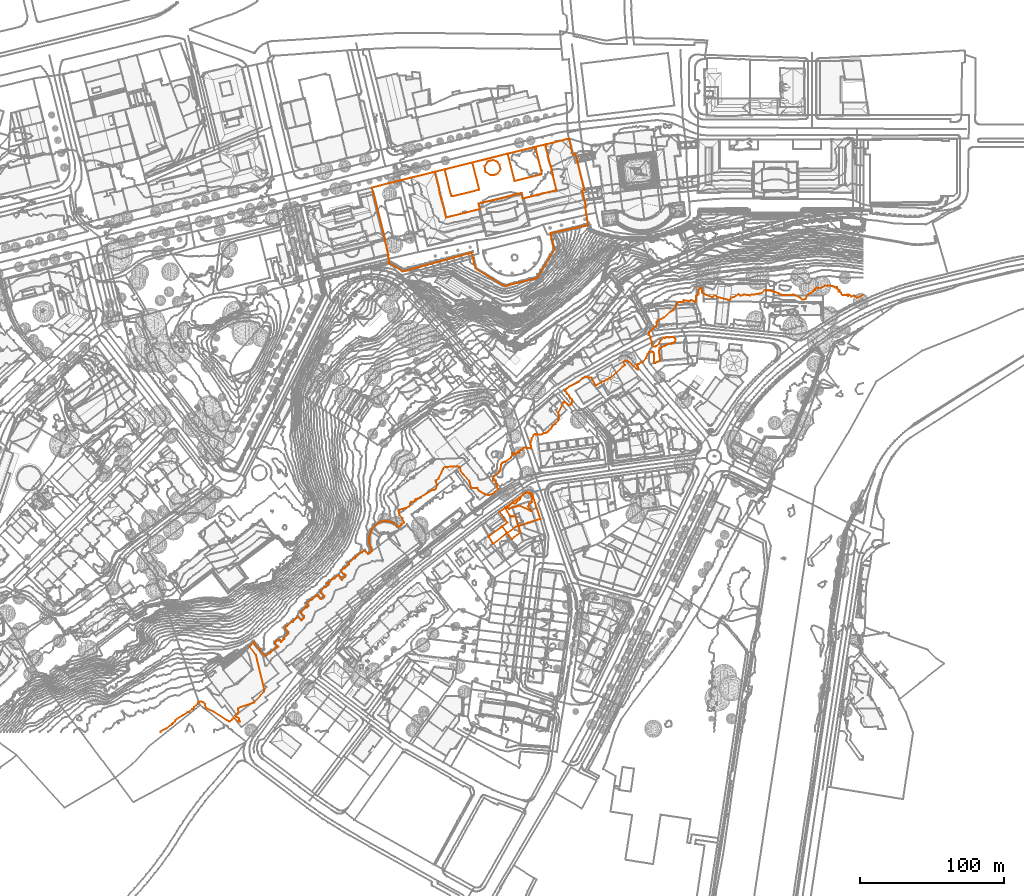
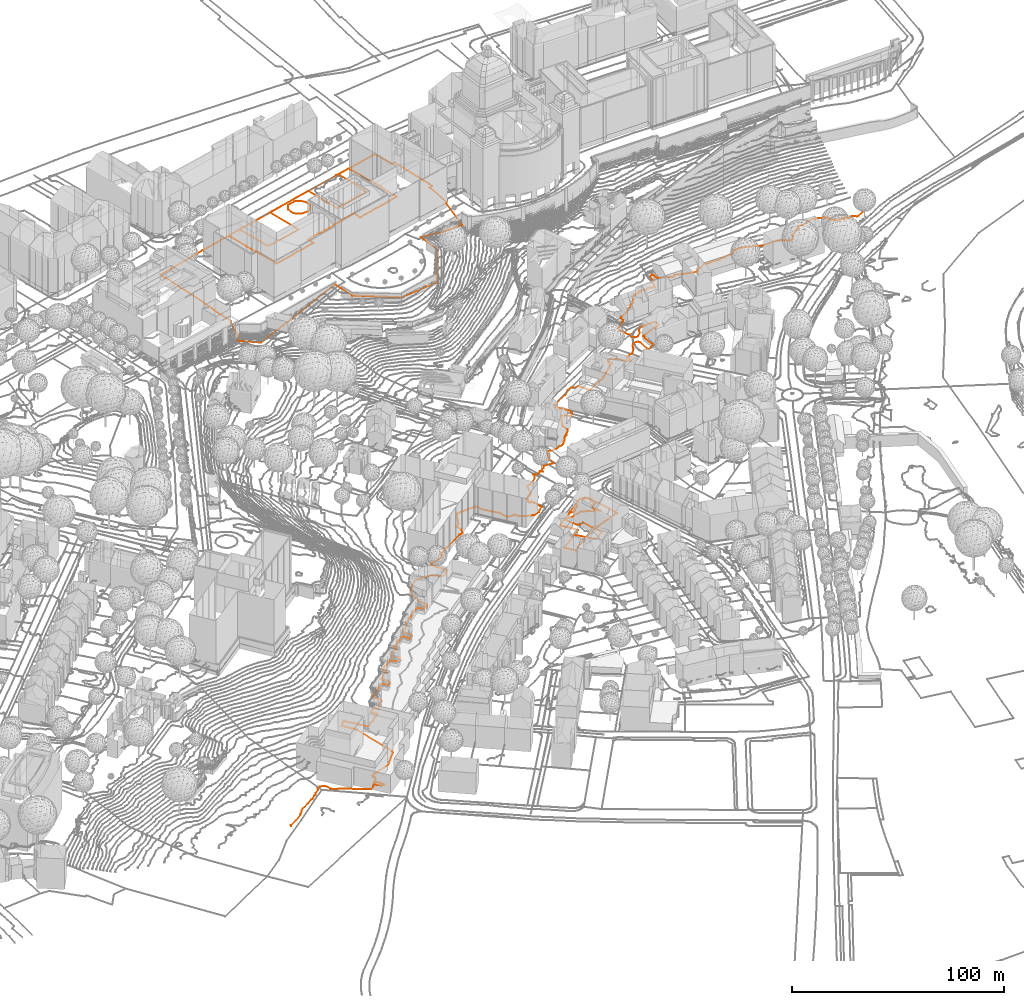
# Not in any storey, part 174 of 477: 5 geographic elements, 2 civil elements.
"""IFC4 model written with IfcOpenShell, lengths in metres."""

from ifc_helpers import new_model, entity, si_unit, frame, origin_with_axes, place, context, subcontext, project, spatial, element, save


model = new_model("IFC4")

# Units and contexts
model_context = context("Model", 3, precision=1e-05, world=origin_with_axes())
body_context = subcontext(model_context, "Body", "Model", "MODEL_VIEW")
ifc_project = project(units=[si_unit("AREAUNIT", "SQUARE_METRE"), si_unit("LENGTHUNIT", "METRE")], contexts=[model_context])

# Sites
site_1_placement = place(None, origin_with_axes())
site_1 = spatial("IfcSite", under=ifc_project, at=site_1_placement, Name="Topoexport Site")
site_2_placement = place(site_1_placement, origin_with_axes())
site_2 = spatial("IfcSite", under=site_1, at=site_2_placement, Name="TPX_ROADS_OUTLINES")

# Civil elements
civil_element_1_placement = place(site_2_placement, frame((391.2397320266, 387.3197160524, 542.4089774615), z_axis=(0.0, 0.0, 1.0), x_axis=(1.0, 0.0, 0.0)))
element("IfcCivilElement", 1, at=civil_element_1_placement, inside=site_2, Name="Roads Outline 55", ObjectType="ROAD", context=body_context, shape_type="GeometricCurveSet", body=[
    entity("IfcGeometricCurveSet", [entity("IfcIndexedPolyCurve", entity("IfcCartesianPointList3D", [[0.0, 0.0, 0.0], [7.9539999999, 1.9740000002, 0.1760027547], [7.693, 1.8730000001, 0.1655847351], [7.46, 1.7169999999, 0.1592736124], [7.2680000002, 1.5120000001, 0.1574373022], [7.1270000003, 1.27, 0.1551417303], [7.0440000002, 1.003, 0.1480296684], [7.0220000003, 0.723, 0.1486119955], [7.0630000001, 0.446, 0.1587662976], [11.094, -16.027, 0.2799670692], [11.1910000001, -16.294, 0.2602178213], [11.3460000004, -16.5319999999, 0.2444493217], [11.551, -16.7290000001, 0.2444749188], [11.7960000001, -16.8729999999, 0.2590962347], [12.0670000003, -16.9579999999, 0.2677839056], [12.3500000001, -16.9790000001, 0.2701081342], [12.6310000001, -16.9350000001, 0.2704521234], [30.6899999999, -12.4939999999, 0.2750468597], [25.9440000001, 6.4200000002, 0.3560263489], [50.4950000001, 12.4880000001, 0.4582752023], [55.2239999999, -6.4199999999, 0.3088139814], [73.0930000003, -1.9450000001, 0.5403591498], [73.3570000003, -1.845, 0.5456409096], [73.591, -1.689, 0.5501038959], [73.7850000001, -1.4839999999, 0.557705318], [73.9270000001, -1.2409999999, 0.5624250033], [74.0120000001, -0.973, 0.5620860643], [74.034, -0.692, 0.5612102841], [73.9930000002, -0.4129999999, 0.5596318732], [69.929, 15.9750000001, 0.4086814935], [69.8370000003, 16.2420000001, 0.4213523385], [69.6880000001, 16.4820000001, 0.4480459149], [69.4880000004, 16.682, 0.4774249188], [69.2480000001, 16.8319999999, 0.5012184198], [68.9810000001, 16.9240000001, 0.5214329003], [68.7000000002, 16.953, 0.5250522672], [68.4190000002, 16.9180000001, 0.5309865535], [76.3500000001, 18.878, 0.5024210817], [76.7779999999, 17.132, 0.5441844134], [76.8560000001, 17.1500000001, 0.5471285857], [79.4160000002, 6.737, 0.6301964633], [80.1630000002, 4.2040000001, 0.6048099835], [80.338, 3.496, 0.5679057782], [80.4380000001, 3.5150000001, 0.5683743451], [81.0780000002, 0.9580000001, 0.6405494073], [80.9730000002, 0.9270000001, 0.6427043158], [81.1520000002, 0.213, 0.6856949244], [81.2540000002, 0.233, 0.6870955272], [81.8900000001, -2.3370000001, 0.652331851], [81.6750000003, -2.385, 0.6457994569], [84.2460000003, -12.787, 0.6008000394], [73.8880000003, -15.335, 0.5174241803], [71.1640000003, -16.0109999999, 0.5688116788], [63.7830000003, -17.8499999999, 0.4865151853], [60.7830000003, -18.5970000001, 0.2210141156], [60.2970000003, -16.6159999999, 0.5914661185], [60.3700000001, -16.5989999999, 0.5918001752], [59.9010000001, -14.7139999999, 0.5361965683], [58.0100000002, -15.173, 0.5741794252], [58.0220000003, -15.2409999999, 0.5795991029], [54.0830000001, -16.156, 0.6511097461], [52.9110000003, -16.4279999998, 0.6690668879], [52.963, -16.5829999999, 0.646938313], [52.4939999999, -16.7239999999, 0.6504026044], [52.5220000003, -16.8229999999, 0.6362807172], [49.9539999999, -17.463, 0.7057848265], [49.9210000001, -17.3640000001, 0.7201063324], [49.4300000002, -17.4879999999, 0.7382402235], [49.452, -17.5859999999, 0.7268454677], [46.8850000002, -18.219, 0.7538668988], [46.858, -18.122, 0.7680390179], [46.3650000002, -18.247, 0.7682668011], [46.3820000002, -18.3359999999, 0.7555358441], [43.8149999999, -18.976, 0.7491621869], [43.7880000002, -18.8769999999, 0.7637245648], [43.2910000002, -18.9949999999, 0.7623552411], [43.3170000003, -19.098, 0.7472676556], [40.7460000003, -19.7319999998, 0.7039292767], [40.7280000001, -19.638, 0.7169534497], [40.2260000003, -19.746, 0.7079273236], [40.2510000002, -19.8529999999, 0.6925935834], [37.682, -20.4819999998, 0.7117748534], [37.656, -20.3859999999, 0.7212390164], [37.1830000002, -20.493, 0.741696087], [37.1370000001, -20.327, 0.7507485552], [35.9850000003, -20.6259999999, 0.7504715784], [32.0619999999, -21.645, 0.5340932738], [32.0470000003, -21.577, 0.5313535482], [30.1610000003, -22.0279999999, 0.4911811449], [30.6380000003, -23.9369999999, 0.560189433], [30.7060000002, -23.9269999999, 0.562197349], [31.2390000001, -25.899, 0.4358210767], [28.2150000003, -26.6439999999, 0.4350699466], [20.8360000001, -28.4639999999, 0.5397216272], [18.0980000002, -29.1410000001, 0.427535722], [7.727, -31.7220000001, 0.292910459], [5.1670000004, -21.301, 0.2705185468], [4.9640000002, -21.3489999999, 0.2544884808], [4.3289999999, -18.781, 0.245888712], [4.4330000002, -18.7549999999, 0.2537899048], [4.2600000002, -18.0430000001, 0.2576042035], [4.159, -18.0659999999, 0.2499798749], [3.5240000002, -15.5049999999, 0.247602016], [3.6260000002, -15.4819999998, 0.2517959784], [3.4539999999, -14.7679999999, 0.2240389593], [3.352, -14.7949999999, 0.2199966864], [2.713, -12.23, 0.1057283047], [2.9240000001, -12.182, 0.1150124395], [0.3930000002, -1.925, 0.0307673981], [0.3530000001, -1.7609999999, 0.026675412], [0.429, -1.7379999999, 0.0268372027], [0.0, 0.0, 0.0]]))]),
])
civil_element_2_placement = place(site_2_placement, frame((435.9947320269, 151.5907160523, 502.5406658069), z_axis=(0.0, 0.0, 1.0), x_axis=(1.0, 0.0, 0.0)))
element("IfcCivilElement", 2, at=civil_element_2_placement, inside=site_2, Name="Roads Outline 115", ObjectType="ROAD", context=body_context, shape_type="GeometricCurveSet", body=[
    entity("IfcGeometricCurveSet", [entity("IfcIndexedPolyCurve", entity("IfcCartesianPointList3D", [[0.0, 0.0, 0.0], [4.0089999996, 2.9370000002, 0.1239977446], [6.983, -2.818, -0.4638702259], [7.2439999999, -3.0599999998, -0.522674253], [7.5409999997, -3.2559999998, -0.5872016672], [7.8659999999, -3.3999999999, -0.6632221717], [8.21, -3.4889999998, -0.7375795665], [8.5639999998, -3.5199999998, -0.7332698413], [8.9189999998, -3.4919999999, -0.7171530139], [10.9199999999, -2.8569999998, -0.5019146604], [13.1199999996, -9.7859999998, -0.6730191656], [14.5669999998, -14.3419999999, -0.5294144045], [8.551, -18.8319999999, 0.3332273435], [5.4069999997, -14.7779999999, 0.118201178], [1.804, -10.1309999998, -0.1540762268], [5.4699999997, -7.4099999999, -0.3656011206], [0.0, 0.0, 0.0]]))]),
])

# Site
site_3_placement = place(site_1_placement, origin_with_axes())
site_3 = spatial("IfcSite", under=site_1, at=site_3_placement, Name="TPX_CADASTRES")

# Geographic elements
geographic_element_1_placement = place(site_3_placement, frame((347.5157320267, 376.3247160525, 541.7142049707), z_axis=(0.0, 0.0, 1.0), x_axis=(1.0, 0.0, 0.0)))
element("IfcGeographicElement", 3, at=geographic_element_1_placement, inside=site_3, Name="Cadastre 17", PredefinedType="NOTDEFINED", context=body_context, shape_type="GeometricCurveSet", body=[
    entity("IfcGeometricCurveSet", [entity("IfcIndexedPolyCurve", entity("IfcCartesianPointList3D", [[0.0, 0.0, 0.0], [27.1069999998, 6.8729999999, 0.4775137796], [28.8480000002, 7.3059999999, 0.5496198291], [28.8670000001, 7.2389999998, 0.548870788], [41.9709999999, 10.504, 0.6834874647], [41.9590000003, 10.567, 0.6843291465], [121.8200000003, 30.3049999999, 1.2338030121], [121.838, 30.2349999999, 1.2336385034], [134.949, 33.4789999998, 1.1926426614], [134.9360000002, 33.5459999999, 1.1941390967], [136.6809999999, 33.9709999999, 1.1454080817], [137.1239999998, 32.2289999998, 1.1894799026], [137.0580000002, 32.2079999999, 1.1928206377], [139.4070000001, 22.737, 1.2930671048], [141.2290000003, 23.1669999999, 1.2966861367], [141.6570000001, 21.433, 1.2686953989], [141.5899999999, 21.416, 1.2687752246], [142.4210000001, 18.054, 1.2287357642], [142.4890000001, 18.071, 1.2286693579], [142.8620000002, 16.5589999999, 1.2106692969], [142.7949999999, 16.54, 1.2107100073], [145.6529999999, 4.9939999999, 0.9844689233], [145.73, 5.014, 0.9822310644], [146.1000000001, 3.5, 0.9686740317], [146.031, 3.4739999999, 0.9703412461], [146.858, 0.1239999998, 0.8823697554], [146.9330000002, 0.1339999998, 0.8815106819], [147.361, -1.6140000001, 0.5264616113], [145.773, -2.0080000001, 0.5164449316], [148.5819999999, -13.3540000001, -2.0447577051], [148.0, -13.4980000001, -1.9539830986], [149.8560000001, -26.023, -7.9292750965], [137.628, -28.7140000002, -5.961913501], [123.7689999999, -31.7050000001, -2.4076516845], [126.5890000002, -42.8760000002, -3.981246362], [114.4900000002, -62.7280000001, -6.4379847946], [91.8820000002, -68.3600000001, -3.7891659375], [72.0290000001, -56.3200000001, -2.9941964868], [70.0840000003, -49.03, -2.4544519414], [69.1140000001, -45.0800000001, -2.3423547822], [21.4199999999, -58.2110000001, -11.3550115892], [11.4810000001, -52.311, -10.3635002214], [12.2990000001, -51.9850000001, -7.9863507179], [11.1140000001, -47.007, -2.4555660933], [11.497, -46.9110000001, -2.4128762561], [8.8560000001, -36.1470000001, -1.9107617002], [9.1460000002, -36.078, -1.9149801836], [1.1400000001, -3.8160000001, -0.1567824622], [0.9720000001, -3.8570000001, -0.1541655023], [0.0, 0.0, 0.0]]))]),
])
geographic_element_2_placement = place(site_3_placement, frame((428.4367320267, 134.5097160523, 502.561125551), z_axis=(0.0, 0.0, 1.0), x_axis=(1.0, 0.0, 0.0)))
element("IfcGeographicElement", 4, at=geographic_element_2_placement, inside=site_3, Name="Cadastre 196", PredefinedType="NOTDEFINED", context=body_context, shape_type="GeometricCurveSet", body=[
    entity("IfcGeometricCurveSet", [entity("IfcIndexedPolyCurve", entity("IfcCartesianPointList3D", [[0.0, 0.0, 0.0], [13.0279999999, 9.6710000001, -0.3860608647], [7.5580000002, 17.081, -0.0204597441], [16.9070000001, 23.9310000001, 0.334629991], [25.236, 29.8420000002, 0.6904770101], [25.6329999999, 30.0850000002, 0.7085374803], [26.0589999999, 30.273, 0.6447314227], [26.5060000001, 30.4040000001, 0.5625382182], [26.966, 30.473, 0.4888255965], [27.4309999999, 30.4810000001, 0.4179082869], [27.8939999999, 30.4270000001, 0.3654890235], [28.3450000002, 30.3120000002, 0.3243273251], [28.7790000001, 30.138, 0.2823823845], [29.1869999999, 29.9070000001, 0.2597841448], [29.5600000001, 29.6240000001, 0.2440791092], [29.8909999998, 29.2930000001, 0.2447197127], [30.176, 28.922, 0.2505122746], [30.409, 28.5160000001, 0.268604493], [30.585, 28.0820000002, 0.2895961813], [35.855, 12.1310000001, -0.0187651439], [32.2519999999, 10.983, 0.0634854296], [20.7209999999, 7.3080000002, -0.6928071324], [18.8470000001, 6.7110000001, -0.7718115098], [12.2280000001, 1.7510000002, 0.1921244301], [3.29, -4.96, 0.3271224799], [3.0600000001, -5.1299999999, 0.3157943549], [0.0, 0.0, 0.0]]))]),
])

# Site
site_4_placement = place(site_1_placement, origin_with_axes())
site_4 = spatial("IfcSite", under=site_1, at=site_4_placement, Name="TPX_CONTOUR_LINES")

# Geographic elements
geographic_element_3_placement = place(site_4_placement, frame((425.7501488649, 391.1707160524, 543.0), z_axis=(0.0, 0.0, 1.0), x_axis=(1.0, 0.0, 0.0)))
element("IfcGeographicElement", 5, at=geographic_element_3_placement, inside=site_4, Name="Contour Line 543.0 m", PredefinedType="NOTDEFINED", context=body_context, shape_type="GeometricCurveSet", body=[
    entity("IfcGeometricCurveSet", [entity("IfcIndexedPolyCurve", entity("IfcCartesianPointList3D", [[7.1375279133, -6.0, 0.0], [3.9275831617, -6.2620898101, 0.0], [0.629245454, -4.0, 0.0], [0.1145694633, -2.0, 0.0], [0.0, 0.0, 0.0], [1.9275831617, 3.1262344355, 0.0], [2.9275831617, 3.6130595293, 0.0], [5.9275831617, 4.3209428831, 0.0], [8.9275831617, 2.8861283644, 0.0], [10.288741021, 1.0, 0.0], [10.5862038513, -1.0, 0.0], [11.0407686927, -2.0, 0.0], [8.9275831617, -5.085081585, 0.0], [7.1375279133, -6.0, 0.0]]))]),
])
geographic_element_4_placement = place(site_4_placement, frame((441.5668752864, 154.1707160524, 503.0), z_axis=(0.0, 0.0, 1.0), x_axis=(1.0, 0.0, 0.0)))
element("IfcGeographicElement", 6, at=geographic_element_4_placement, inside=site_4, Name="Contour Line 503.0 m", PredefinedType="NOTDEFINED", context=body_context, shape_type="GeometricCurveSet", body=[
    entity("IfcGeometricCurveSet", [entity("IfcIndexedPolyCurve", entity("IfcCartesianPointList3D", [[16.7222428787, -2.0, 0.0], [16.1108567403, -2.0873717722, 0.0], [8.1108567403, 1.6091262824, 0.0], [2.1108567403, -0.0972580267, 0.0], [1.1108567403, -0.7938561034, 0.0], [0.0, 0.0, 0.0], [1.1108567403, 1.5762638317, 0.0], [3.1108567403, 3.31918849, 0.0], [5.3302686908, 3.0, 0.0], [6.3788979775, 4.0, 0.0], [6.9082362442, 5.0, 0.0], [8.5197937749, 6.0, 0.0], [9.2233913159, 8.0, 0.0], [11.1108567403, 9.6445041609, 0.0], [13.1108567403, 10.611111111, 0.0], [14.1108567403, 10.5219771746, 0.0], [15.2077973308, 10.0, 0.0], [16.1813140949, 9.0, 0.0], [17.1205332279, 7.0, 0.0], [16.7153069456, 5.0, 0.0], [16.8314191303, 4.0, 0.0], [14.9914986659, 3.0, 0.0], [14.3385980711, 1.0, 0.0], [16.7222428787, -2.0, 0.0]]))]),
])
geographic_element_5_placement = place(site_4_placement, frame((200.8565787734, -1.3292839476, 504.0), z_axis=(0.0, 0.0, 1.0), x_axis=(1.0, 0.0, 0.0)))
element("IfcGeographicElement", 7, at=geographic_element_5_placement, inside=site_4, Name="Contour Line 504.0 m", PredefinedType="NOTDEFINED", context=body_context, shape_type="GeometricCurveSet", body=[
    entity("IfcGeometricCurveSet", [entity("IfcIndexedPolyCurve", entity("IfcCartesianPointList3D", [[487.3211532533, 303.1029642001, 0.0], [486.8211532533, 303.1029642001, 0.0], [483.9610449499, 301.5, 0.0], [482.8211532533, 301.2613586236, 0.0], [481.8211532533, 302.3936374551, 0.0], [480.8211532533, 302.6869918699, 0.0], [478.8211532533, 302.2022278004, 0.0], [477.8211532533, 303.1356196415, 0.0], [476.8211532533, 303.5751206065, 0.0], [476.5197707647, 303.5, 0.0], [476.8211532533, 302.342948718, 0.0], [475.8211532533, 303.1705780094, 0.0], [472.8211532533, 303.0653147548, 0.0], [471.8211532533, 304.8519076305, 0.0], [470.0899955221, 305.5, 0.0], [470.7917734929, 306.5, 0.0], [468.9986327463, 307.5, 0.0], [469.2372191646, 308.5, 0.0], [468.8211532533, 308.7219170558, 0.0], [467.8211532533, 308.2247737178, 0.0], [466.8211532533, 309.0961938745, 0.0], [463.8211532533, 309.8132474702, 0.0], [460.8211532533, 309.6820044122, 0.0], [457.8211532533, 308.0626242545, 0.0], [454.8211532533, 308.1479003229, 0.0], [454.0411532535, 307.5, 0.0], [453.8211532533, 306.4641148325, 0.0], [452.8211532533, 306.354596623, 0.0], [452.5975949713, 305.5, 0.0], [448.7675506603, 303.5, 0.0], [447.1848456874, 300.5, 0.0], [445.8211532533, 299.9792441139, 0.0], [444.8211532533, 299.9122908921, 0.0], [443.8211532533, 301.1038101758, 0.0], [439.8211532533, 303.2550764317, 0.0], [438.8211532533, 303.4115184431, 0.0], [435.8211532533, 303.034424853, 0.0], [431.8211532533, 303.0317093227, 0.0], [430.062889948, 303.5, 0.0], [428.8211532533, 304.3129192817, 0.0], [424.8211532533, 305.6825839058, 0.0], [421.8211532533, 306.2892968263, 0.0], [418.8211532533, 306.4154113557, 0.0], [416.8211532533, 304.4566935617, 0.0], [410.8211532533, 303.3046095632, 0.0], [409.8211532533, 303.5914881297, 0.0], [408.8211532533, 302.8826655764, 0.0], [404.8211532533, 303.4175854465, 0.0], [402.8211532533, 302.880245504, 0.0], [401.8211532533, 302.9316109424, 0.0], [400.8211532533, 303.6980477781, 0.0], [397.8211532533, 301.8445789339, 0.0], [395.8211532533, 301.2705835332, 0.0], [394.8211532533, 299.8305621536, 0.0], [393.8211532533, 299.7159373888, 0.0], [385.8211532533, 301.878263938, 0.0], [384.8211532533, 302.6226415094, 0.0], [383.8211532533, 302.6830882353, 0.0], [382.8211532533, 301.4279125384, 0.0], [375.8211532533, 304.398177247, 0.0], [375.4366800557, 305.5, 0.0], [375.3578480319, 307.5, 0.0], [374.8211532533, 308.1204750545, 0.0], [373.8211532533, 307.798633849, 0.0], [373.1760580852, 306.5, 0.0], [372.9984792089, 303.5, 0.0], [371.3277460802, 302.5, 0.0], [371.5219976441, 300.5, 0.0], [370.8211532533, 298.3961102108, 0.0], [367.8211532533, 299.6753109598, 0.0], [366.8211532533, 298.991349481, 0.0], [365.8211532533, 298.9341225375, 0.0], [362.8211532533, 299.5630173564, 0.0], [362.8218212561, 298.5, 0.0], [360.8211532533, 298.1172824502, 0.0], [359.8211532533, 298.3430625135, 0.0], [358.2136893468, 297.5, 0.0], [355.8211532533, 292.5995062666, 0.0], [353.8211532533, 291.7844891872, 0.0], [348.8211532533, 287.3585233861, 0.0], [344.8211532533, 285.3072649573, 0.0], [344.1453035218, 284.5, 0.0], [344.2341571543, 282.5, 0.0], [343.8211532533, 281.7154150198, 0.0], [342.8211532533, 281.3677042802, 0.0], [342.3579485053, 280.5, 0.0], [338.7795807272, 277.5, 0.0], [338.533876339, 275.5, 0.0], [339.7357421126, 274.5, 0.0], [339.5461311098, 273.5, 0.0], [340.9607663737, 270.5, 0.0], [340.8885485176, 268.5, 0.0], [341.8211532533, 267.5733031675, 0.0], [342.8211532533, 267.2827130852, 0.0], [343.8211532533, 267.6983311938, 0.0], [345.8211532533, 269.3731707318, 0.0], [346.8211532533, 271.7436149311, 0.0], [348.8211532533, 273.5367166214, 0.0], [349.8211532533, 273.222202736, 0.0], [350.8211532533, 273.8761175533, 0.0], [352.8211532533, 273.7255591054, 0.0], [354.8211532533, 274.0170525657, 0.0], [356.5423401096, 273.5, 0.0], [357.1596033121, 272.5, 0.0], [356.8211532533, 270.6926605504, 0.0], [355.8211532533, 270.0116761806, 0.0], [354.8211532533, 269.793123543, 0.0], [353.8211532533, 269.1263086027, 0.0], [352.8211532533, 269.3118139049, 0.0], [345.994664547, 266.5, 0.0], [346.1503573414, 265.5, 0.0], [345.6067839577, 264.5, 0.0], [346.5211417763, 258.5, 0.0], [346.0699837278, 257.5, 0.0], [342.8211532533, 255.9735353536, 0.0], [342.3234450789, 256.5, 0.0], [342.2101806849, 262.5, 0.0], [341.5937596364, 263.5, 0.0], [340.8211532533, 263.8354503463, 0.0], [338.8211532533, 263.5871100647, 0.0], [337.8211532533, 262.1225165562, 0.0], [336.6405285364, 259.5, 0.0], [334.8211532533, 257.0645695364, 0.0], [334.1216660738, 256.5, 0.0], [332.8211532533, 256.2450503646, 0.0], [331.8211532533, 255.4029649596, 0.0], [330.8211532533, 255.1227089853, 0.0], [330.5322689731, 254.5, 0.0], [331.2239325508, 253.5, 0.0], [331.1642104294, 251.5, 0.0], [330.8211532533, 251.417019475, 0.0], [329.8211532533, 252.1409683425, 0.0], [324.8211532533, 256.7967527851, 0.0], [322.8211532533, 257.6591200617, 0.0], [321.8211532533, 257.5017897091, 0.0], [321.1062083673, 256.5, 0.0], [322.0129340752, 254.5, 0.0], [320.5739126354, 253.5, 0.0], [312.8211532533, 246.4667467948, 0.0], [311.8211532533, 245.6300411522, 0.0], [305.219079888, 242.5, 0.0], [301.8211532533, 240.3390804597, 0.0], [298.8211532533, 245.942697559, 0.0], [296.8211532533, 245.7469662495, 0.0], [294.8211532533, 246.635724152, 0.0], [292.8211532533, 245.6000765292, 0.0], [289.8211532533, 242.8727871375, 0.0], [283.3549129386, 239.5, 0.0], [280.8211532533, 237.6230171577, 0.0], [280.506577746, 236.5, 0.0], [281.754146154, 235.5, 0.0], [282.1077454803, 234.5, 0.0], [283.3272552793, 233.5, 0.0], [284.146910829, 231.5, 0.0], [285.4017731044, 230.5, 0.0], [285.2612977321, 228.5, 0.0], [284.8211532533, 227.5718171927, 0.0], [283.8211532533, 226.8090909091, 0.0], [282.8211532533, 226.9473905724, 0.0], [280.8713099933, 228.5, 0.0], [279.8211532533, 228.8636082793, 0.0], [279.1793866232, 228.5, 0.0], [278.8211532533, 227.2301790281, 0.0], [275.8405768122, 221.5, 0.0], [276.3723836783, 217.5, 0.0], [275.8732198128, 216.5, 0.0], [274.0514270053, 214.5, 0.0], [273.8211532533, 213.7011173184, 0.0], [272.8211532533, 213.3966183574, 0.0], [271.8986880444, 212.5, 0.0], [270.9289807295, 210.5, 0.0], [269.8211532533, 209.733974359, 0.0], [268.8211532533, 208.3691073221, 0.0], [267.8211532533, 207.6521035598, 0.0], [265.8211532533, 207.3338846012, 0.0], [263.8211532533, 206.4305912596, 0.0], [260.8211532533, 206.4440937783, 0.0], [259.8211532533, 206.8212412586, 0.0], [258.8211532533, 206.1419141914, 0.0], [257.470942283, 203.5, 0.0], [256.6025467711, 200.5, 0.0], [256.9405861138, 198.5, 0.0], [256.8211532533, 196.7714377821, 0.0], [251.8211532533, 197.3231631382, 0.0], [250.8211532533, 195.7439393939, 0.0], [249.805084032, 195.5, 0.0], [248.296400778, 194.5, 0.0], [249.1383292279, 193.5, 0.0], [248.5973614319, 193.5, 0.0], [247.8211532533, 194.2837837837, 0.0], [246.8211532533, 193.0790921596, 0.0], [245.8211532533, 192.583759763, 0.0], [244.8211532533, 193.667304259, 0.0], [243.8211532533, 193.5504469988, 0.0], [244.0976371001, 192.5, 0.0], [243.0115642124, 190.5, 0.0], [239.1461963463, 187.5, 0.0], [237.8211532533, 187.1967987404, 0.0], [236.8211532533, 186.4746716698, 0.0], [236.2764816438, 185.5, 0.0], [235.6305799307, 181.5, 0.0], [234.8211532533, 180.2646284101, 0.0], [231.2264593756, 177.5, 0.0], [231.1269641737, 176.5, 0.0], [230.5734157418, 175.5, 0.0], [230.8211532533, 174.3766959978, 0.0], [231.8211532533, 174.780598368, 0.0], [232.8211532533, 172.907012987, 0.0], [233.2778938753, 171.5, 0.0], [233.1910789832, 170.5, 0.0], [233.9813264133, 168.5, 0.0], [231.8211532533, 166.6677419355, 0.0], [230.905930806, 165.5, 0.0], [227.8211532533, 164.3968081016, 0.0], [227.1807395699, 164.5, 0.0], [223.9404280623, 165.5, 0.0], [221.8211532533, 166.7713222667, 0.0], [220.7326115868, 167.5, 0.0], [219.8211532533, 169.1382536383, 0.0], [215.8211532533, 169.4337778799, 0.0], [215.1886782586, 170.5, 0.0], [214.4914808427, 173.5, 0.0], [213.973213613, 174.5, 0.0], [209.8211532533, 179.1699597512, 0.0], [208.1599563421, 181.5, 0.0], [207.8211532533, 183.5352644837, 0.0], [206.8211532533, 184.3616749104, 0.0], [197.8211532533, 183.923431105, 0.0], [196.6375565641, 183.5, 0.0], [195.8676721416, 182.5, 0.0], [192.8211532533, 175.790617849, 0.0], [190.8935465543, 174.5, 0.0], [191.8324536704, 171.5, 0.0], [190.8211532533, 168.4298486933, 0.0], [189.8211532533, 167.9007308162, 0.0], [188.8211532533, 168.0391268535, 0.0], [178.8211532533, 162.0753045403, 0.0], [176.8211532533, 161.5580168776, 0.0], [176.5472472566, 160.5, 0.0], [173.8211532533, 159.4193686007, 0.0], [173.0992102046, 158.5, 0.0], [173.2696396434, 157.5, 0.0], [172.4067431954, 156.5, 0.0], [170.4174415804, 155.5, 0.0], [165.8211532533, 154.387880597, 0.0], [165.1903957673, 153.5, 0.0], [165.5098429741, 151.5, 0.0], [165.9645107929, 150.5, 0.0], [167.7577619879, 148.5, 0.0], [167.9506682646, 147.5, 0.0], [169.1062757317, 145.5, 0.0], [167.3413072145, 144.5, 0.0], [166.9611471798, 143.5, 0.0], [165.9907114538, 142.5, 0.0], [164.8211532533, 142.6579807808, 0.0], [163.8211532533, 143.2255636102, 0.0], [160.8211532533, 145.6354702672, 0.0], [155.8211532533, 146.3447103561, 0.0], [152.8211532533, 145.9528178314, 0.0], [149.0106925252, 143.5, 0.0], [146.5178906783, 140.5, 0.0], [145.6349227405, 138.5, 0.0], [144.7387865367, 134.5, 0.0], [144.8211532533, 131.078373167, 0.0], [146.2706256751, 127.5, 0.0], [146.6475080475, 125.5, 0.0], [145.8211532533, 124.6727539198, 0.0], [144.8211532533, 124.6752933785, 0.0], [143.8211532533, 123.6742941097, 0.0], [141.8211532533, 125.6752968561, 0.0], [140.8211532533, 125.6751727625, 0.0], [139.8211532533, 124.6752724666, 0.0], [138.8211532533, 124.6745923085, 0.0], [135.8211532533, 121.6743116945, 0.0], [134.8211532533, 120.8037536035, 0.0], [133.8211532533, 120.6736161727, 0.0], [130.5853172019, 117.5, 0.0], [130.6470093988, 116.5, 0.0], [127.8211532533, 113.6853014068, 0.0], [126.8211532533, 113.6296678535, 0.0], [125.6465778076, 112.5, 0.0], [125.6466041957, 111.5, 0.0], [127.6328393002, 109.5, 0.0], [128.0021932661, 108.5, 0.0], [127.6476372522, 107.5, 0.0], [125.8211532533, 105.7094259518, 0.0], [125.0349416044, 106.5, 0.0], [124.9444745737, 107.5, 0.0], [123.8211532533, 108.6752968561, 0.0], [122.8211532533, 108.6747765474, 0.0], [120.8211532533, 106.9622963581, 0.0], [119.8211532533, 106.6741498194, 0.0], [116.8211532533, 103.872178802, 0.0], [115.6472256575, 103.5, 0.0], [116.6469009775, 102.5, 0.0], [114.8211532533, 100.7714267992, 0.0], [113.8211532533, 100.6741994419, 0.0], [111.6444120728, 98.5, 0.0], [111.0525965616, 97.5, 0.0], [111.6458563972, 96.5, 0.0], [113.6464305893, 94.5, 0.0], [112.8168665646, 93.5, 0.0], [111.8211532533, 92.674524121, 0.0], [110.8211532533, 92.6752968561, 0.0], [108.9964501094, 94.5, 0.0], [108.8211532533, 95.0180311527, 0.0], [107.8211532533, 94.6741892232, 0.0], [105.8211532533, 92.6751314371, 0.0], [104.8211532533, 91.9594454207, 0.0], [103.8211532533, 91.6745402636, 0.0], [101.6461478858, 89.5, 0.0], [102.6458563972, 88.5, 0.0], [102.4311669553, 87.5, 0.0], [101.8211532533, 86.8933687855, 0.0], [100.8211532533, 86.6747412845, 0.0], [97.8211532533, 83.7074088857, 0.0], [97.0592031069, 83.5, 0.0], [97.6458563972, 82.5, 0.0], [99.5885748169, 80.5, 0.0], [99.6467615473, 79.5, 0.0], [97.8211532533, 77.6716678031, 0.0], [95.8211532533, 79.6752968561, 0.0], [94.8211532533, 79.6741614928, 0.0], [91.8211532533, 76.7164205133, 0.0], [90.8211532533, 76.6733625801, 0.0], [87.8211532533, 73.702205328, 0.0], [86.6472285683, 73.5, 0.0], [86.7116477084, 71.5, 0.0], [88.6458563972, 69.5, 0.0], [88.6463296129, 68.5, 0.0], [85.8211532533, 65.7929751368, 0.0], [85.6469637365, 64.5, 0.0], [83.8211532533, 62.6724038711, 0.0], [82.8211532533, 63.6752968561, 0.0], [81.8211532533, 64.1356088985, 0.0], [80.8211532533, 63.6745996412, 0.0], [79.6458778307, 62.5, 0.0], [79.648298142, 61.5, 0.0], [81.603337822, 59.5, 0.0], [80.8211532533, 58.716630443, 0.0], [79.8346344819, 58.5, 0.0], [76.8211532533, 55.7548131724, 0.0], [74.8211532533, 54.6593604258, 0.0], [72.8211532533, 52.8099217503, 0.0], [69.1608359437, 56.5, 0.0], [68.9715795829, 57.5, 0.0], [66.0009629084, 60.5, 0.0], [64.8211532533, 62.6503743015, 0.0], [61.8159460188, 59.5, 0.0], [66.2845327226, 53.5, 0.0], [72.0787513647, 29.5, 0.0], [71.8211532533, 28.2347826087, 0.0], [64.8211532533, 20.6209553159, 0.0], [55.6722810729, 17.5, 0.0], [53.951588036, 16.5, 0.0], [53.935178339, 15.5, 0.0], [54.294357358, 14.5, 0.0], [53.3767088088, 12.5, 0.0], [51.9394778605, 11.5, 0.0], [52.8211532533, 10.5496613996, 0.0], [54.4259326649, 9.5, 0.0], [54.5017429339, 8.5, 0.0], [55.2013449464, 7.5, 0.0], [53.8211532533, 7.2379679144, 0.0], [50.8211532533, 9.9915422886, 0.0], [49.8211532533, 8.6828178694, 0.0], [47.8211532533, 7.4485964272, 0.0], [45.8211532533, 8.3812753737, 0.0], [36.8211532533, 14.1929046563, 0.0], [32.0319341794, 16.5, 0.0], [31.3860230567, 17.5, 0.0], [30.8211532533, 19.6534070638, 0.0], [29.8211532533, 20.649973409, 0.0], [27.8211532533, 21.364118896, 0.0], [26.2124400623, 20.5, 0.0], [25.8650349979, 19.5, 0.0], [23.4776019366, 17.5, 0.0], [22.8211532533, 16.2240425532, 0.0], [21.8211532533, 16.1411785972, 0.0], [19.8211532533, 14.0357407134, 0.0], [18.8211532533, 13.9252177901, 0.0], [15.8211532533, 11.8221400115, 0.0], [11.8211532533, 9.6362781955, 0.0], [10.55096628, 8.5, 0.0], [10.1442523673, 7.5, 0.0], [8.8908168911, 6.5, 0.0], [8.1471480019, 5.5, 0.0], [3.8211532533, 2.5841056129, 0.0], [0.0, 0.5, 0.0], [0.0, 0.0, 0.0]]))]),
])

save(model, "model.ifc")
